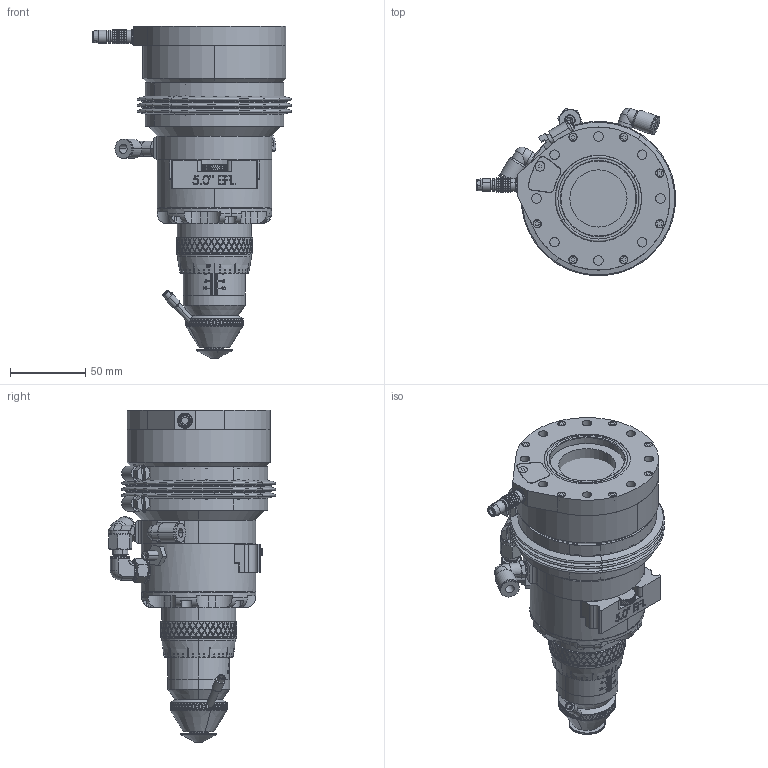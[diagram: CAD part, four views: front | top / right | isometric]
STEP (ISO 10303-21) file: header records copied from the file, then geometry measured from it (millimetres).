
FILE_DESCRIPTION (( 'STEP AP214' ), '1' );
FILE_NAME ('G4-38-127-AMX-CP.STEP', '2017-01-10T17:13:18', ( '' ), ( '' ), 'SwSTEP 2.0', 'SolidWorks 2017', '' );
FILE_SCHEMA (( 'AUTOMOTIVE_DESIGN' ));
Length unit declared in the file: inch
Products named in the file (1): G4-38-127-AMX-CP
Bounding box: 132.5 x 111.51 x 221.05 mm (x, y, z)
Volume: 1189343.5 mm3; surface area: 228092.9 mm2
Topology: 46 solids, 46 shells, 5572 faces, 14308 edges, 8961 vertices
Faces by surface type: plane 3618, cylinder 1199, cone 514, bspline 143, torus 90, sphere 8
Entity records: 176914 total; most frequent: CARTESIAN_POINT 50366, ORIENTED_EDGE 28602, DIRECTION 23446, EDGE_CURVE 14301, VERTEX_POINT 8961, AXIS2_PLACEMENT_3D 7947, LINE 7552, VECTOR 7552
